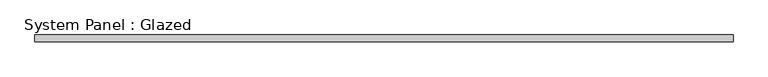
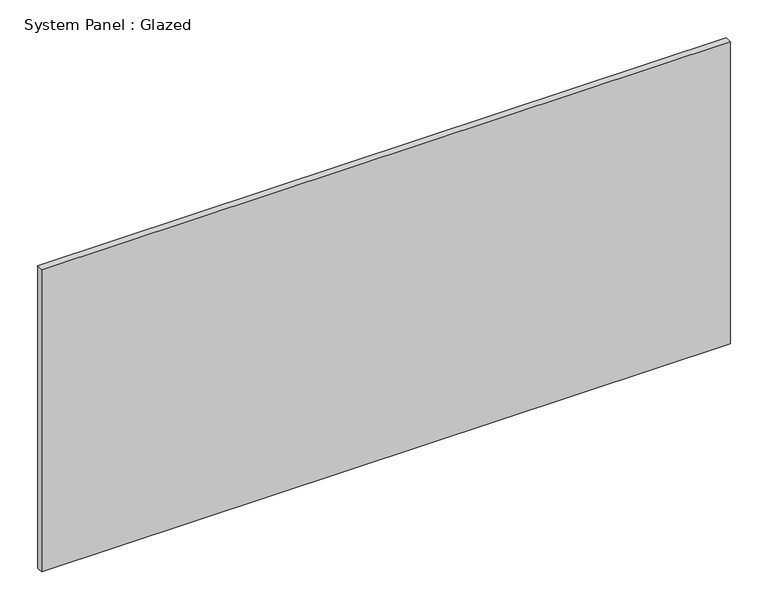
"""IFC4 building model written with IfcOpenShell, lengths in millimetres: plate geometry, System Panel : Glazed."""

from ifc_helpers import new_model, si_unit, origin, origin_with_axes, place, context, project, spatial, polyline, outline, extrude, source, transform, mapped, element, save


def system_panel_glazed_28309fe7(model_context):
    return source(origin(), model_context, "Body", "SweptSolid", [
        extrude(outline(polyline([(526.2142184, -5.0), (-526.2142184, -5.0), (-526.2142184, 5.0), (526.2142184, 5.0), (526.2142184, -5.0)])), origin_with_axes(), (0.0, 0.0, 1.0), 488.3333333),
    ])


if __name__ == "__main__":
    model = new_model("IFC4")
    model_context = context("Model", 3, world=origin())
    ifc_project = project(units=[si_unit("LENGTHUNIT", "METRE", prefix="MILLI")], contexts=[model_context])
    site = spatial("IfcSite", under=ifc_project)
    building = spatial("IfcBuilding", under=site)
    placement = place(None, origin())
    system_panel_glazed_shape = system_panel_glazed_28309fe7(model_context)
    element("IfcPlate", 1, ObjectType="System Panel : Glazed", at=placement, inside=building, context=model_context, shape_type="MappedRepresentation", body=[
        mapped(system_panel_glazed_shape, transform((0.0, 0.0, 0.0), x_axis=(1.0, 0.0, 0.0), y_axis=(0.0, 1.0, 0.0), z_axis=(0.0, 0.0, 1.0))),
    ])
    save(model, "model.ifc")
